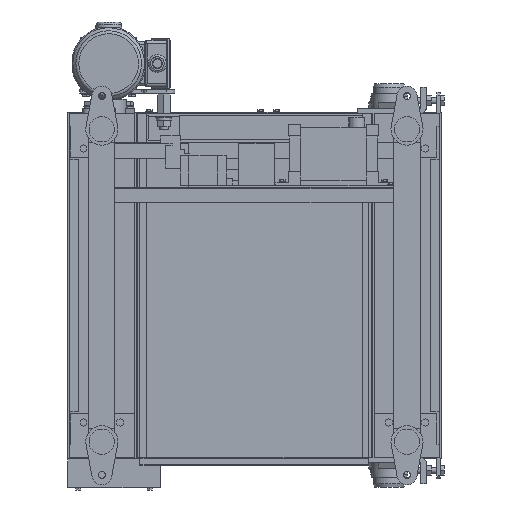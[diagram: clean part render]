
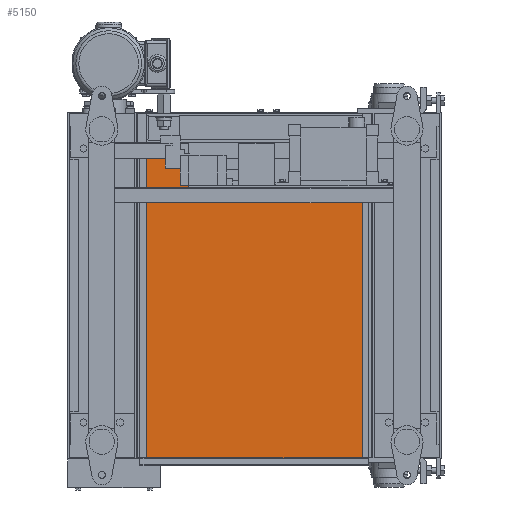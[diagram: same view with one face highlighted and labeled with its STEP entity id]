
A CAD part, front view. The second image highlights one B-rep face of the part: STEP entity #5150.
In plain terms, the highlighted planar face has unit normal (0, -1, 0).
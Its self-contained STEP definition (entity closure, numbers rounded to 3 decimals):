
#5150=ADVANCED_FACE('',(#27272),#27271,.F.);
#27271=PLANE('',#42628);
#27272=FACE_OUTER_BOUND('',#42629,.T.);
#42625=CARTESIAN_POINT('',(582.5,-165.,271.));
#42626=DIRECTION('',(0.,1.,0.));
#42627=DIRECTION('',(0.,0.,-1.));
#42628=AXIS2_PLACEMENT_3D('',#42625,#42626,#42627);
#42629=EDGE_LOOP('',(#55612,#55613,#55614,#55615));
#55612=ORIENTED_EDGE('',*,*,#62932,.F.);
#55613=ORIENTED_EDGE('',*,*,#62938,.F.);
#55614=ORIENTED_EDGE('',*,*,#62939,.F.);
#55615=ORIENTED_EDGE('',*,*,#62940,.F.);
#62932=EDGE_CURVE('',#100360,#100361,#100362,.T.);
#62938=EDGE_CURVE('',#100399,#100360,#100400,.T.);
#62939=EDGE_CURVE('',#100406,#100399,#100407,.T.);
#62940=EDGE_CURVE('',#100361,#100406,#100413,.T.);
#100360=VERTEX_POINT('',#128440);
#100361=VERTEX_POINT('',#128441);
#100362=LINE('',#128442,#128443);
#100399=VERTEX_POINT('',#128461);
#100400=LINE('',#128462,#128463);
#100406=VERTEX_POINT('',#128465);
#100407=LINE('',#128466,#128467);
#100413=LINE('',#128469,#128470);
#128440=CARTESIAN_POINT('',(572.5,-165.,261.));
#128441=CARTESIAN_POINT('',(572.5,-165.,-328.2));
#128442=CARTESIAN_POINT('',(572.5,-165.,261.));
#128443=VECTOR('',#128444,589.2);
#128444=DIRECTION('',(0.,0.,-1.));
#128461=CARTESIAN_POINT('',(137.5,-165.,261.));
#128462=CARTESIAN_POINT('',(137.5,-165.,261.));
#128463=VECTOR('',#128464,435.);
#128464=DIRECTION('',(1.,0.,0.));
#128465=CARTESIAN_POINT('',(137.5,-165.,-328.2));
#128466=CARTESIAN_POINT('',(137.5,-165.,-328.2));
#128467=VECTOR('',#128468,589.2);
#128468=DIRECTION('',(0.,0.,1.));
#128469=CARTESIAN_POINT('',(572.5,-165.,-328.2));
#128470=VECTOR('',#128471,435.);
#128471=DIRECTION('',(-1.,0.,0.));
